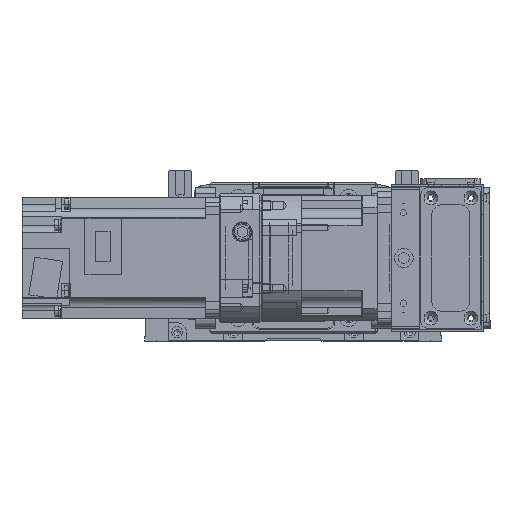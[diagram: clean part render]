
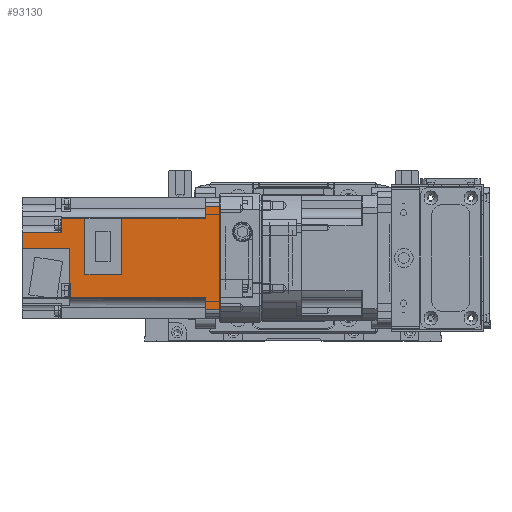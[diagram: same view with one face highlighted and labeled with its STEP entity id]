
A CAD part, front view. The second image highlights one B-rep face of the part: STEP entity #93130.
In plain terms, the highlighted planar face has unit normal (0, -1, 0).
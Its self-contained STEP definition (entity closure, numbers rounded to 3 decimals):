
#10033=FACE_OUTER_BOUND('',#15384,.T.);
#15384=EDGE_LOOP('',(#76017,#76018,#76019,#76020,#76021,#76022,#76023,#76024,
#76025,#76026,#76027,#76028,#76029,#76030,#76031,#76032,#76033,#76034,#76035,
#76036));
#22574=LINE('',#150718,#32447);
#22605=LINE('',#150838,#32478);
#22608=LINE('',#150849,#32481);
#22648=LINE('',#150964,#32521);
#22709=LINE('',#151174,#32582);
#22710=LINE('',#151179,#32583);
#22711=LINE('',#151181,#32584);
#22712=LINE('',#151182,#32585);
#22713=LINE('',#151184,#32586);
#22714=LINE('',#151186,#32587);
#22715=LINE('',#151188,#32588);
#22716=LINE('',#151190,#32589);
#22717=LINE('',#151192,#32590);
#22718=LINE('',#151194,#32591);
#22719=LINE('',#151196,#32592);
#22720=LINE('',#151198,#32593);
#22721=LINE('',#151199,#32594);
#22722=LINE('',#151201,#32595);
#22723=LINE('',#151203,#32596);
#22724=LINE('',#151204,#32597);
#32447=VECTOR('',#119445,51.);
#32478=VECTOR('',#119548,3.41);
#32481=VECTOR('',#119557,2.444);
#32521=VECTOR('',#119659,7.8);
#32582=VECTOR('',#119894,5.941);
#32583=VECTOR('',#119901,67.3);
#32584=VECTOR('',#119904,0.905);
#32585=VECTOR('',#119905,7.);
#32586=VECTOR('',#119906,7.);
#32587=VECTOR('',#119907,5.941);
#32588=VECTOR('',#119908,41.6);
#32589=VECTOR('',#119909,27.559);
#32590=VECTOR('',#119910,18.35);
#32591=VECTOR('',#119911,27.559);
#32592=VECTOR('',#119912,11.85);
#32593=VECTOR('',#119913,7.059);
#32594=VECTOR('',#119914,19.5);
#32595=VECTOR('',#119915,23.5);
#32596=VECTOR('',#119916,17.5);
#32597=VECTOR('',#119917,0.5);
#42647=VERTEX_POINT('',#150715);
#42648=VERTEX_POINT('',#150717);
#42698=VERTEX_POINT('',#150832);
#42700=VERTEX_POINT('',#150835);
#42701=VERTEX_POINT('',#150837);
#42706=VERTEX_POINT('',#150847);
#42749=VERTEX_POINT('',#150961);
#42750=VERTEX_POINT('',#150963);
#42811=VERTEX_POINT('',#151171);
#42812=VERTEX_POINT('',#151173);
#42814=VERTEX_POINT('',#151183);
#42815=VERTEX_POINT('',#151185);
#42816=VERTEX_POINT('',#151187);
#42817=VERTEX_POINT('',#151189);
#42818=VERTEX_POINT('',#151191);
#42819=VERTEX_POINT('',#151193);
#42820=VERTEX_POINT('',#151195);
#42821=VERTEX_POINT('',#151197);
#42822=VERTEX_POINT('',#151200);
#42823=VERTEX_POINT('',#151202);
#54273=EDGE_CURVE('',#42647,#42648,#22574,.T.);
#54332=EDGE_CURVE('',#42700,#42701,#22605,.T.);
#54338=EDGE_CURVE('',#42706,#42698,#22608,.T.);
#54396=EDGE_CURVE('',#42749,#42750,#22648,.T.);
#54500=EDGE_CURVE('',#42812,#42811,#22709,.T.);
#54503=EDGE_CURVE('',#42812,#42706,#22710,.T.);
#54504=EDGE_CURVE('',#42698,#42700,#22711,.T.);
#54505=EDGE_CURVE('',#42811,#42648,#22712,.T.);
#54506=EDGE_CURVE('',#42647,#42814,#22713,.T.);
#54507=EDGE_CURVE('',#42815,#42814,#22714,.T.);
#54508=EDGE_CURVE('',#42815,#42816,#22715,.T.);
#54509=EDGE_CURVE('',#42816,#42817,#22716,.T.);
#54510=EDGE_CURVE('',#42817,#42818,#22717,.T.);
#54511=EDGE_CURVE('',#42818,#42819,#22718,.T.);
#54512=EDGE_CURVE('',#42820,#42819,#22719,.T.);
#54513=EDGE_CURVE('',#42821,#42820,#22720,.T.);
#54514=EDGE_CURVE('',#42750,#42821,#22721,.T.);
#54515=EDGE_CURVE('',#42749,#42822,#22722,.T.);
#54516=EDGE_CURVE('',#42823,#42822,#22723,.T.);
#54517=EDGE_CURVE('',#42701,#42823,#22724,.T.);
#76017=ORIENTED_EDGE('',*,*,#54504,.F.);
#76018=ORIENTED_EDGE('',*,*,#54338,.F.);
#76019=ORIENTED_EDGE('',*,*,#54503,.F.);
#76020=ORIENTED_EDGE('',*,*,#54500,.T.);
#76021=ORIENTED_EDGE('',*,*,#54505,.T.);
#76022=ORIENTED_EDGE('',*,*,#54273,.F.);
#76023=ORIENTED_EDGE('',*,*,#54506,.T.);
#76024=ORIENTED_EDGE('',*,*,#54507,.F.);
#76025=ORIENTED_EDGE('',*,*,#54508,.T.);
#76026=ORIENTED_EDGE('',*,*,#54509,.T.);
#76027=ORIENTED_EDGE('',*,*,#54510,.T.);
#76028=ORIENTED_EDGE('',*,*,#54511,.T.);
#76029=ORIENTED_EDGE('',*,*,#54512,.F.);
#76030=ORIENTED_EDGE('',*,*,#54513,.F.);
#76031=ORIENTED_EDGE('',*,*,#54514,.F.);
#76032=ORIENTED_EDGE('',*,*,#54396,.F.);
#76033=ORIENTED_EDGE('',*,*,#54515,.T.);
#76034=ORIENTED_EDGE('',*,*,#54516,.F.);
#76035=ORIENTED_EDGE('',*,*,#54517,.F.);
#76036=ORIENTED_EDGE('',*,*,#54332,.F.);
#88572=PLANE('',#101321);
#93130=ADVANCED_FACE('',(#10033),#88572,.F.);
#101321=AXIS2_PLACEMENT_3D('',#151180,#119902,#119903);
#119445=DIRECTION('',(1.,0.,0.));
#119548=DIRECTION('',(-1.,0.,0.));
#119557=DIRECTION('',(-1.,0.,0.));
#119659=DIRECTION('',(-1.,0.,0.));
#119894=DIRECTION('',(1.,0.,0.));
#119901=DIRECTION('',(0.,0.,-1.));
#119902=DIRECTION('center_axis',(0.,1.,0.));
#119903=DIRECTION('ref_axis',(-1.,0.,0.));
#119904=DIRECTION('',(-1.,0.,0.));
#119905=DIRECTION('',(0.,0.,1.));
#119906=DIRECTION('',(0.,0.,-1.));
#119907=DIRECTION('',(-1.,0.,0.));
#119908=DIRECTION('',(0.,0.,-1.));
#119909=DIRECTION('',(1.,0.,0.));
#119910=DIRECTION('',(0.,0.,-1.));
#119911=DIRECTION('',(-1.,0.,0.));
#119912=DIRECTION('',(0.,0.,1.));
#119913=DIRECTION('',(-1.,0.,0.));
#119914=DIRECTION('',(0.,0.,1.));
#119915=DIRECTION('',(0.,0.,1.));
#119916=DIRECTION('',(-1.,0.,0.));
#119917=DIRECTION('',(0.,0.,-1.));
#150715=CARTESIAN_POINT('',(-25.5,-30.,0.));
#150717=CARTESIAN_POINT('',(25.5,-30.,0.));
#150718=CARTESIAN_POINT('',(-25.5,-30.,0.));
#150832=CARTESIAN_POINT('',(17.115,-30.,-74.3));
#150835=CARTESIAN_POINT('',(16.21,-30.,-74.3));
#150837=CARTESIAN_POINT('',(12.8,-30.,-74.3));
#150838=CARTESIAN_POINT('',(16.21,-30.,-74.3));
#150847=CARTESIAN_POINT('',(19.559,-30.,-74.3));
#150849=CARTESIAN_POINT('',(19.559,-30.,-74.3));
#150961=CARTESIAN_POINT('',(-4.7,-30.,-98.3));
#150963=CARTESIAN_POINT('',(-12.5,-30.,-98.3));
#150964=CARTESIAN_POINT('',(-4.7,-30.,-98.3));
#151171=CARTESIAN_POINT('',(25.5,-30.,-7.));
#151173=CARTESIAN_POINT('',(19.559,-30.,-7.));
#151174=CARTESIAN_POINT('',(19.559,-30.,-7.));
#151179=CARTESIAN_POINT('',(19.559,-30.,-7.));
#151180=CARTESIAN_POINT('Origin',(0.,-30.,-3.9));
#151181=CARTESIAN_POINT('',(17.115,-30.,-74.3));
#151182=CARTESIAN_POINT('',(25.5,-30.,-7.));
#151183=CARTESIAN_POINT('',(-25.5,-30.,-7.));
#151184=CARTESIAN_POINT('',(-25.5,-30.,0.));
#151185=CARTESIAN_POINT('',(-19.559,-30.,-7.));
#151186=CARTESIAN_POINT('',(-19.559,-30.,-7.));
#151187=CARTESIAN_POINT('',(-19.559,-30.,-48.6));
#151188=CARTESIAN_POINT('',(-19.559,-30.,-7.));
#151189=CARTESIAN_POINT('',(8.,-30.,-48.6));
#151190=CARTESIAN_POINT('',(-19.559,-30.,-48.6));
#151191=CARTESIAN_POINT('',(8.,-30.,-66.95));
#151192=CARTESIAN_POINT('',(8.,-30.,-48.6));
#151193=CARTESIAN_POINT('',(-19.559,-30.,-66.95));
#151194=CARTESIAN_POINT('',(8.,-30.,-66.95));
#151195=CARTESIAN_POINT('',(-19.559,-30.,-78.8));
#151196=CARTESIAN_POINT('',(-19.559,-30.,-78.8));
#151197=CARTESIAN_POINT('',(-12.5,-30.,-78.8));
#151198=CARTESIAN_POINT('',(-12.5,-30.,-78.8));
#151199=CARTESIAN_POINT('',(-12.5,-30.,-98.3));
#151200=CARTESIAN_POINT('',(-4.7,-30.,-74.8));
#151201=CARTESIAN_POINT('',(-4.7,-30.,-98.3));
#151202=CARTESIAN_POINT('',(12.8,-30.,-74.8));
#151203=CARTESIAN_POINT('',(12.8,-30.,-74.8));
#151204=CARTESIAN_POINT('',(12.8,-30.,-74.3));
